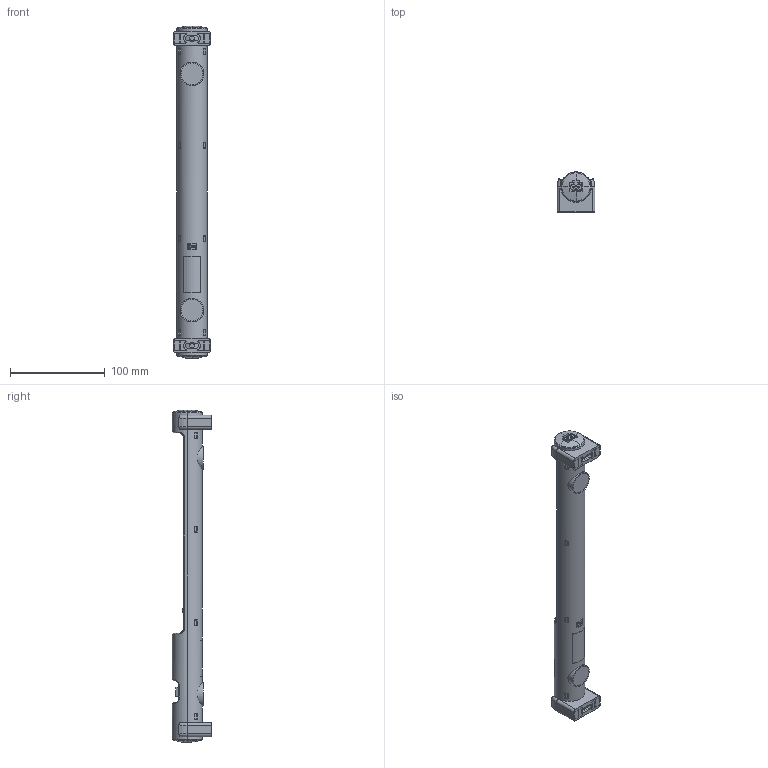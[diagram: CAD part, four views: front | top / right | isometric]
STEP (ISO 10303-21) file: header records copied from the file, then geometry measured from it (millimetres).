
FILE_DESCRIPTION (( 'STEP AP214' ), '1' );
FILE_NAME ('y02540.0-00_LED-Leuchte_C_Clip_BG_Logo_eplan_03_2013~0.STEP', '2013-03-07T12:18:48', ( 'Nutzer' ), ( '' ), 'SwSTEP 2.0', 'SolidWorks 2012', '' );
FILE_SCHEMA (( 'AUTOMOTIVE_DESIGN' ));
Length unit declared in the file: millimetre
Products named in the file (1): y02540.0-00_LED-Leuchte_C_Clip_BG_Logo_eplan_03_2013~0
Bounding box: 40 x 42 x 351.2 mm (x, y, z)
Surface area: 52439 mm2 (no closed solid volume)
Topology: 0 solids, 31 shells, 616 faces, 2279 edges, 1633 vertices
Faces by surface type: plane 315, cylinder 174, bspline 70, torus 24, cone 17, sphere 16
Entity records: 33048 total; most frequent: CARTESIAN_POINT 7875, DIRECTION 3662, ORIENTED_EDGE 3459, EDGE_CURVE 2266, VERTEX_POINT 1629, LINE 1406, VECTOR 1406, AXIS2_PLACEMENT_3D 1128
